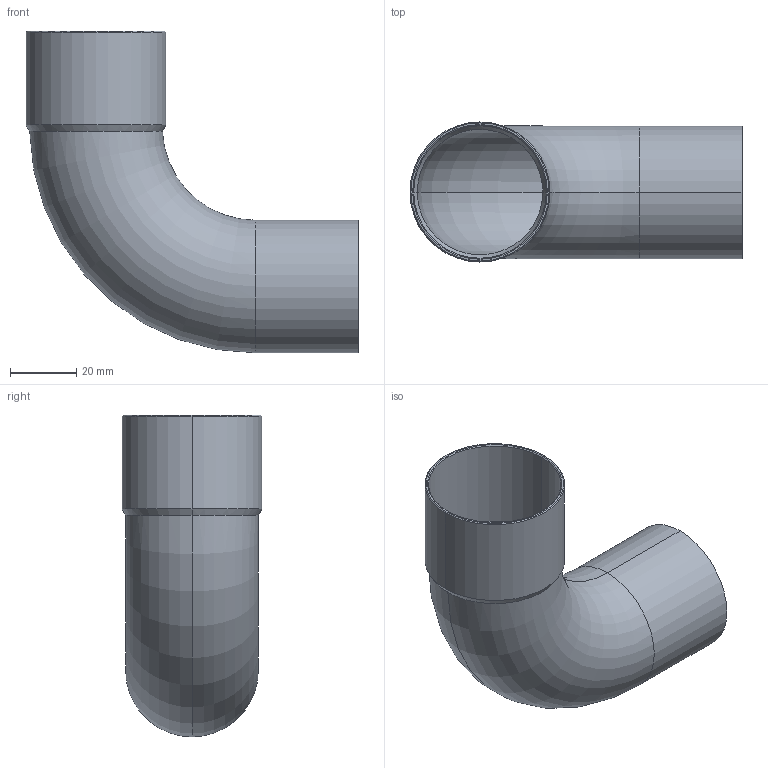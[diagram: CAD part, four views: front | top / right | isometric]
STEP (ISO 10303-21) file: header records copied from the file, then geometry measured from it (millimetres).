
FILE_DESCRIPTION((''),'2;1');
FILE_NAME('P:\Bouwmaten\z-maattekeningen 3D\5000\5001a\15001a40.stp','2005-10-04T14:50:23',('Kris'),(''),'Autodesk Inventor 8','Autodesk Inventor 8','');
FILE_SCHEMA(('AUTOMOTIVE_DESIGN { 1 0 10303 214 1 1 1 1 }'));
Length unit declared in the file: millimetre
Products named in the file (1): 15001a40
Bounding box: 100.1 x 42.2 x 97 mm (x, y, z)
Volume: 18451.7 mm3; surface area: 33800.7 mm2
Topology: 1 solids, 1 shells, 22 faces, 46 edges, 26 vertices
Faces by surface type: cone 8, cylinder 8, torus 4, plane 2
Entity records: 679 total; most frequent: CARTESIAN_POINT 171, DIRECTION 114, ORIENTED_EDGE 92, AXIS2_PLACEMENT_3D 49, EDGE_CURVE 46, VERTEX_POINT 26, CIRCLE 26, EDGE_LOOP 24
